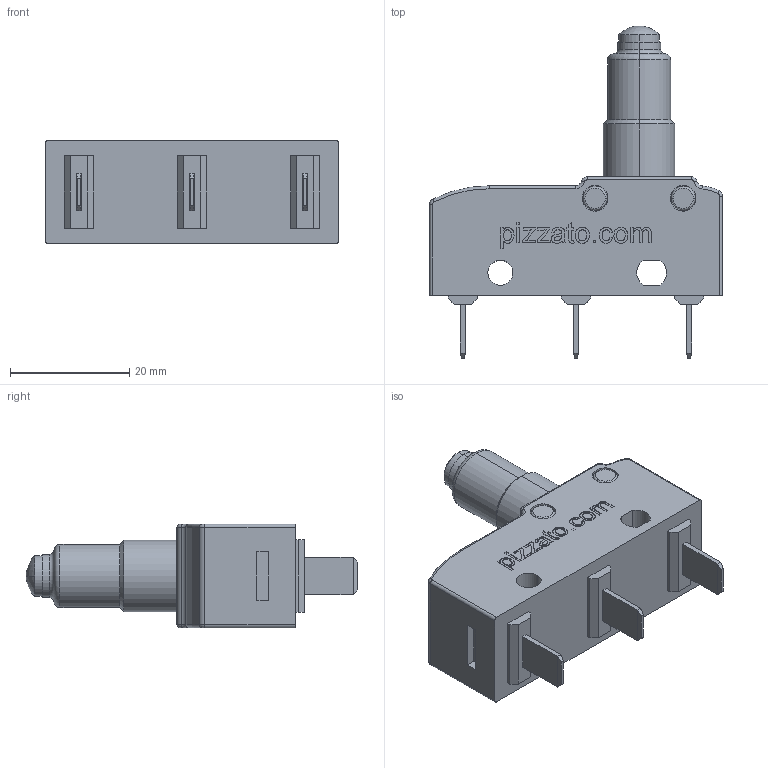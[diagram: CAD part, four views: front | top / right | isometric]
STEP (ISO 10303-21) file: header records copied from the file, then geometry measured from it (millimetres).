
FILE_DESCRIPTION (( 'STEP AP203' ), '1' );
FILE_NAME ('Pizzato_MK_HxxD12.STEP', '2009-02-13T16:03:33', ( 'mario' ), ( '' ), 'SwSTEP 2.0', 'SolidWorks 2009', '' );
FILE_SCHEMA (( 'CONFIG_CONTROL_DESIGN' ));
Length unit declared in the file: millimetre
Products named in the file (4): Pizzato_MK_HxxD12; Pizzato_Custodia_MK_MKH_06-17; Pizzato_Supporto MK12; Pizzato_Pulsante_MK12
Assembly tree (3 placements, depth 2):
  Pizzato_MK_HxxD12
    Pizzato_Custodia_MK_MKH_06-17
    Pizzato_Supporto MK12
    Pizzato_Pulsante_MK12
Bounding box: 49.2 x 55.75 x 17.4 mm (x, y, z)
Volume: 17793 mm3; surface area: 6897.1 mm2
Topology: 3 solids, 3 shells, 454 faces, 1144 edges, 745 vertices
Faces by surface type: plane 275, cylinder 76, bspline 69, torus 30, cone 2, sphere 2
Entity records: 17284 total; most frequent: CARTESIAN_POINT 6242, ORIENTED_EDGE 2288, DIRECTION 1996, EDGE_CURVE 1144, LINE 798, VECTOR 798, VERTEX_POINT 745, AXIS2_PLACEMENT_3D 599
